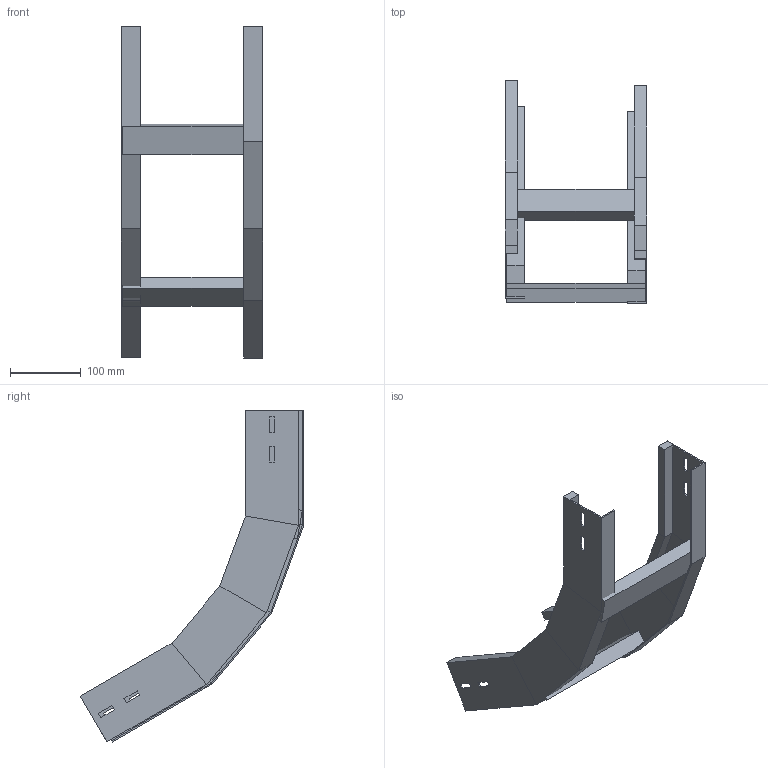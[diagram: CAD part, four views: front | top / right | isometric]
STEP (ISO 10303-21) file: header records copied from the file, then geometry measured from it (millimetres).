
FILE_DESCRIPTION (( 'STEP AP214' ), '1' );
FILE_NAME ('A2X40B3C200XX.step', '2025-04-02T09:25:04', ( '' ), ( '' ), 'SwSTEP 2.0', 'SolidWorks 2023', '' );
FILE_SCHEMA (( 'AUTOMOTIVE_DESIGN' ));
Length unit declared in the file: millimetre
Products named in the file (3): TRAVERSINO_200; A2X40B3C200XX; LONGH.SALITA_60°_H75_R300
Assembly tree (4 placements, depth 2):
  A2X40B3C200XX
    LONGH.SALITA_60°_H75_R300  x2
    TRAVERSINO_200  x2
Bounding box: 200 x 315.85 x 469.15 mm (x, y, z)
Volume: 737106 mm3; surface area: 311903.6 mm2
Topology: 4 solids, 4 shells, 112 faces, 264 edges, 160 vertices
Faces by surface type: plane 112
Entity records: 1664 total; most frequent: CARTESIAN_POINT 275, ORIENTED_EDGE 264, DIRECTION 258, LINE 132, EDGE_CURVE 132, VECTOR 132, VERTEX_POINT 80, EDGE_LOOP 64
